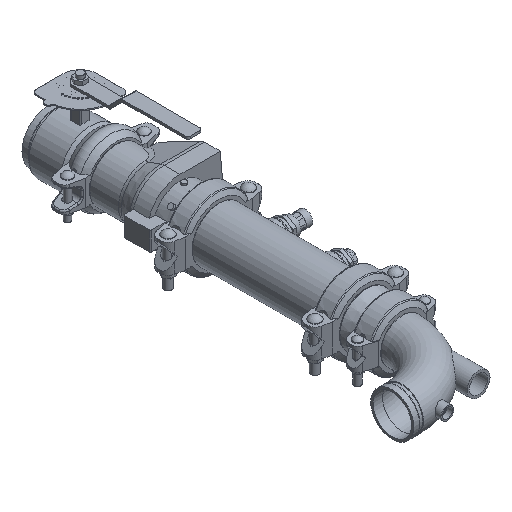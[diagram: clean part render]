
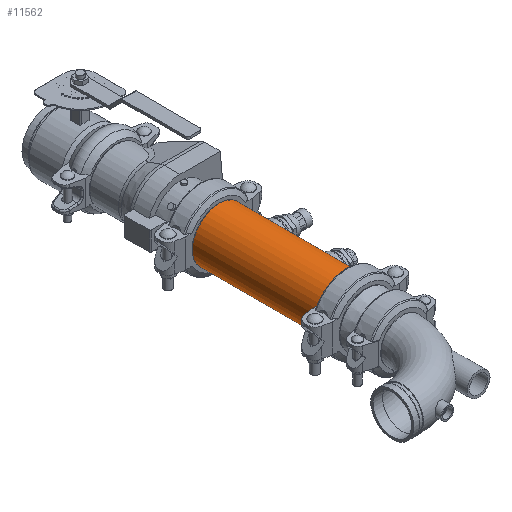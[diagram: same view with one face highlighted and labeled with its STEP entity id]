
A CAD part, isometric view. The second image highlights one B-rep face of the part: STEP entity #11562.
In plain terms, the highlighted cylindrical face has radius 70.65 mm (diameter 141.3 mm), a full revolution.
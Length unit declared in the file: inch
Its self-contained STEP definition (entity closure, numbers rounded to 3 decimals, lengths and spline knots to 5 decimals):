
#342=LINE('',#17348,#1212);
#1212=VECTOR('',#13804,2.7815);
#2082=CYLINDRICAL_SURFACE('',#12444,2.7815);
#2432=FACE_OUTER_BOUND('',#3073,.T.);
#3073=EDGE_LOOP('',(#7237,#7238,#7239,#7240,#7241,#7242));
#3830=CIRCLE('',#12442,2.7815);
#3831=CIRCLE('',#12443,2.7815);
#3832=CIRCLE('',#12445,2.7815);
#3833=CIRCLE('',#12446,2.7815);
#4445=VERTEX_POINT('',#17339);
#4446=VERTEX_POINT('',#17340);
#4447=VERTEX_POINT('',#17344);
#4448=VERTEX_POINT('',#17345);
#5557=EDGE_CURVE('',#4445,#4446,#3830,.T.);
#5558=EDGE_CURVE('',#4446,#4445,#3831,.T.);
#5559=EDGE_CURVE('',#4447,#4448,#3832,.T.);
#5560=EDGE_CURVE('',#4448,#4447,#3833,.T.);
#5561=EDGE_CURVE('',#4448,#4446,#342,.T.);
#7237=ORIENTED_EDGE('',*,*,#5559,.F.);
#7238=ORIENTED_EDGE('',*,*,#5560,.F.);
#7239=ORIENTED_EDGE('',*,*,#5561,.T.);
#7240=ORIENTED_EDGE('',*,*,#5558,.T.);
#7241=ORIENTED_EDGE('',*,*,#5557,.T.);
#7242=ORIENTED_EDGE('',*,*,#5561,.F.);
#11562=ADVANCED_FACE('',(#2432),#2082,.T.);
#12442=AXIS2_PLACEMENT_3D('',#17341,#13794,#13795);
#12443=AXIS2_PLACEMENT_3D('',#17342,#13796,#13797);
#12444=AXIS2_PLACEMENT_3D('',#17343,#13798,#13799);
#12445=AXIS2_PLACEMENT_3D('',#17346,#13800,#13801);
#12446=AXIS2_PLACEMENT_3D('',#17347,#13802,#13803);
#13794=DIRECTION('center_axis',(1.,0.,0.));
#13795=DIRECTION('ref_axis',(0.,0.,-1.));
#13796=DIRECTION('center_axis',(1.,0.,0.));
#13797=DIRECTION('ref_axis',(0.,0.,-1.));
#13798=DIRECTION('center_axis',(1.,0.,0.));
#13799=DIRECTION('ref_axis',(0.,1.,0.));
#13800=DIRECTION('center_axis',(1.,0.,0.));
#13801=DIRECTION('ref_axis',(0.,0.,-1.));
#13802=DIRECTION('center_axis',(1.,0.,0.));
#13803=DIRECTION('ref_axis',(0.,0.,-1.));
#13804=DIRECTION('',(-1.,0.,0.));
#17339=CARTESIAN_POINT('',(-6.5785,2.7815,0.));
#17340=CARTESIAN_POINT('',(-6.5785,-2.7815,0.));
#17341=CARTESIAN_POINT('Origin',(-6.5785,0.,0.));
#17342=CARTESIAN_POINT('Origin',(-6.5785,0.,0.));
#17343=CARTESIAN_POINT('Origin',(0.,0.,0.));
#17344=CARTESIAN_POINT('',(6.5785,2.7815,0.));
#17345=CARTESIAN_POINT('',(6.5785,-2.7815,0.));
#17346=CARTESIAN_POINT('Origin',(6.5785,0.,0.));
#17347=CARTESIAN_POINT('Origin',(6.5785,0.,0.));
#17348=CARTESIAN_POINT('',(0.,-2.7815,0.));
